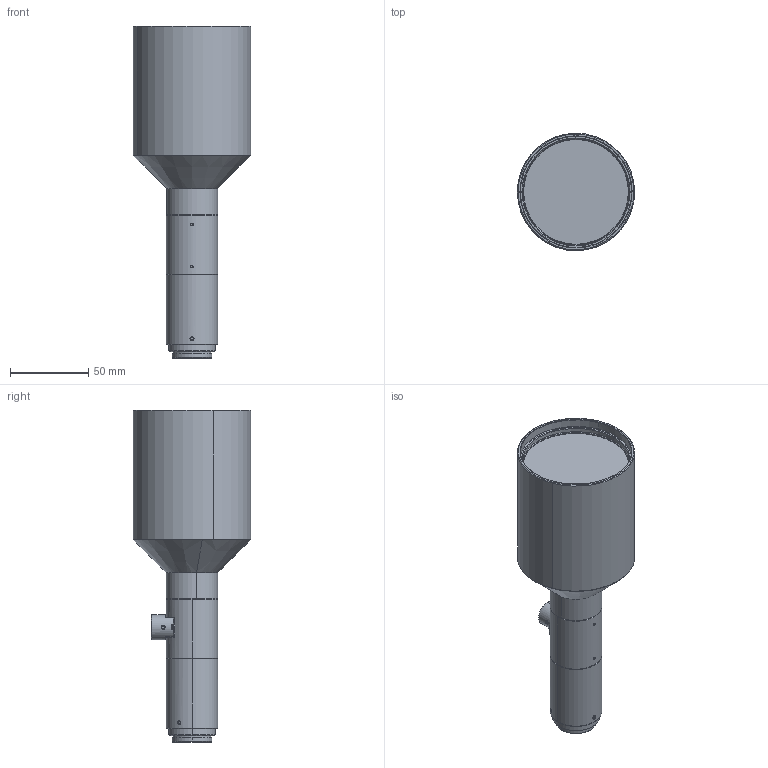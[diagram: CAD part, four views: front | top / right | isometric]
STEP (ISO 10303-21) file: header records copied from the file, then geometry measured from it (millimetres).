
FILE_DESCRIPTION (( 'STEP AP203' ), '1' );
FILE_NAME ('MML018-110D_A00410A0100101A.STEP', '2014-07-23T00:57:56', ( '' ), ( '' ), 'SwSTEP 2.0', 'SolidWorks 2011', '' );
FILE_SCHEMA (( 'CONFIG_CONTROL_DESIGN' ));
Length unit declared in the file: millimetre
Products named in the file (1): MML018-110D_A00410A0100101A
Bounding box: 75 x 75 x 212.4 mm (x, y, z)
Volume: 464974.4 mm3; surface area: 48311.9 mm2
Topology: 1 solids, 11 shells, 391 faces, 958 edges, 596 vertices
Faces by surface type: cone 144, plane 139, cylinder 96, torus 8, sphere 4
Entity records: 12076 total; most frequent: CARTESIAN_POINT 2818, DIRECTION 1987, ORIENTED_EDGE 1888, EDGE_CURVE 944, AXIS2_PLACEMENT_3D 817, VERTEX_POINT 596, EDGE_LOOP 428, CIRCLE 425
